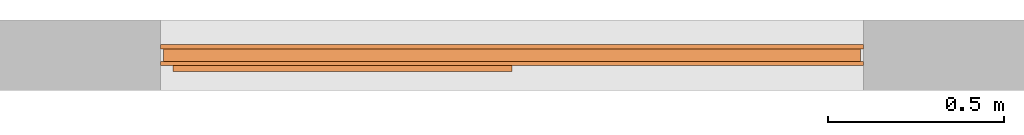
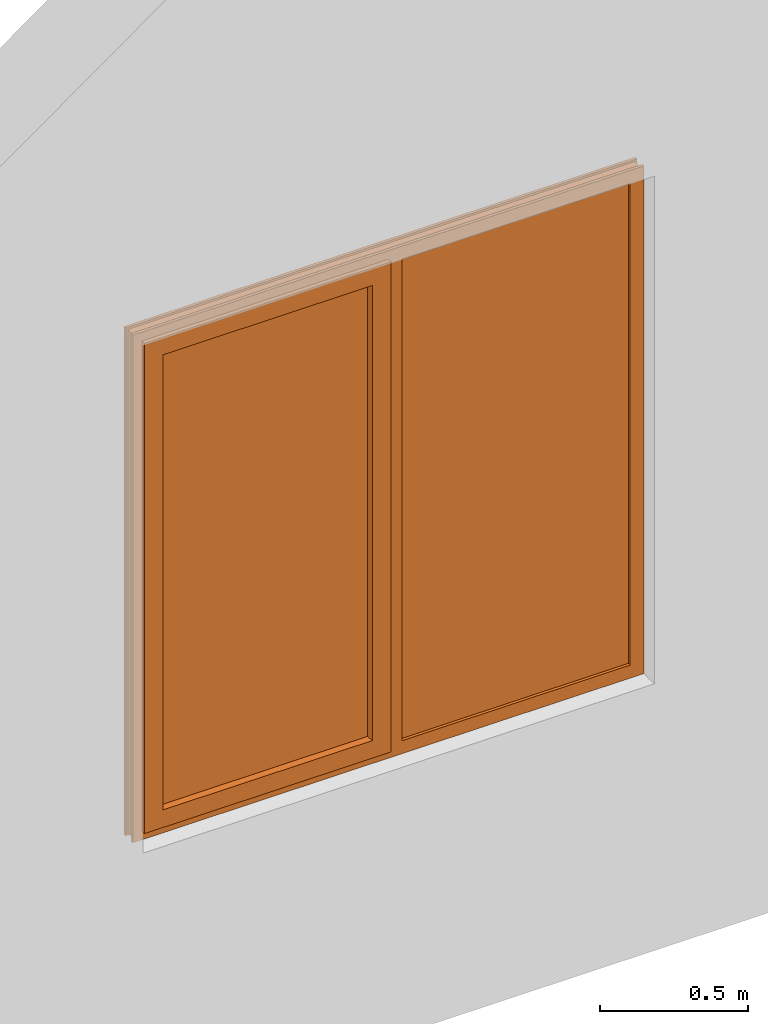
# One storey, part 2 of 2: 1 proxy.
"""IFC2X3 building model written with IfcOpenShell, lengths in millimetres."""

from ifc_helpers import new_model, entity, si_unit, converted_unit, derived_unit, direction, frame, origin, place, context, subcontext, project, spatial, faceted_brep, source, transform, mapped, material, material_list, type_object, type_shapes, element, save


model = new_model("IFC2X3")

# Units and contexts
model_context = context("Model", 3, precision=0.01, world=origin(), true_north=direction((6.12303176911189e-17, 1.0)))
body_context = subcontext(model_context, "Body", "Model", "MODEL_VIEW")
ifc_project = project(units=[si_unit("LENGTHUNIT", "METRE", prefix="MILLI"), si_unit("AREAUNIT", "SQUARE_METRE"), si_unit("VOLUMEUNIT", "CUBIC_METRE"), converted_unit("PLANEANGLEUNIT", "DEGREE", entity("IfcRatioMeasure", 0.0174532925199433), si_unit("PLANEANGLEUNIT", "RADIAN"), dimensions=[0, 0, 0, 0, 0, 0, 0]), si_unit("MASSUNIT", "GRAM", prefix="KILO"), derived_unit("MASSDENSITYUNIT", [(si_unit("MASSUNIT", "GRAM", prefix="KILO"), 1), (si_unit("LENGTHUNIT", "METRE"), -3)]), si_unit("TIMEUNIT", "SECOND"), si_unit("FREQUENCYUNIT", "HERTZ"), si_unit("THERMODYNAMICTEMPERATUREUNIT", "DEGREE_CELSIUS"), derived_unit("THERMALTRANSMITTANCEUNIT", [(si_unit("MASSUNIT", "GRAM", prefix="KILO"), 1), (si_unit("THERMODYNAMICTEMPERATUREUNIT", "KELVIN"), -1), (si_unit("TIMEUNIT", "SECOND"), -3)]), derived_unit("VOLUMETRICFLOWRATEUNIT", [(si_unit("LENGTHUNIT", "METRE"), 3), (si_unit("TIMEUNIT", "SECOND"), -1)]), si_unit("ELECTRICCURRENTUNIT", "AMPERE"), si_unit("ELECTRICVOLTAGEUNIT", "VOLT"), si_unit("POWERUNIT", "WATT"), si_unit("FORCEUNIT", "NEWTON", prefix="KILO"), si_unit("ILLUMINANCEUNIT", "LUX"), si_unit("LUMINOUSFLUXUNIT", "LUMEN"), si_unit("LUMINOUSINTENSITYUNIT", "CANDELA"), derived_unit("USERDEFINED", [(si_unit("MASSUNIT", "GRAM", prefix="KILO"), -1), (si_unit("LENGTHUNIT", "METRE"), -2), (si_unit("TIMEUNIT", "SECOND"), 3), (si_unit("LUMINOUSFLUXUNIT", "LUMEN"), 1)]), derived_unit("LINEARVELOCITYUNIT", [(si_unit("LENGTHUNIT", "METRE"), 1), (si_unit("TIMEUNIT", "SECOND"), -1)]), si_unit("PRESSUREUNIT", "PASCAL"), derived_unit("USERDEFINED", [(si_unit("LENGTHUNIT", "METRE"), -2), (si_unit("MASSUNIT", "GRAM", prefix="KILO"), 1), (si_unit("TIMEUNIT", "SECOND"), -2)])], contexts=[model_context])

# Site, building, storey
site_placement = place(None, origin())
site = spatial("IfcSite", under=ifc_project, at=site_placement, Name="Default", CompositionType="ELEMENT")
building_placement = place(site_placement, origin())
building = spatial("IfcBuilding", under=site, at=building_placement, CompositionType="ELEMENT")
storey_placement = place(building_placement, origin())
storey = spatial("IfcBuildingStorey", under=building, at=storey_placement, Name="Nivel 1", CompositionType="ELEMENT", Elevation=0.0)

# Proxy
ifc_material_1 = material(Name="Glass")
ifc_material_2 = material(Name="RAU-PVC")
ifc_material_list_1 = material_list([ifc_material_1, ifc_material_2])
ifc_material_list_2 = material_list([ifc_material_1, ifc_material_2])
building_element_proxy_type = type_object("IfcBuildingElementProxyType", Name="9.1 REH_ED-60 Z60 CORREDERA + FIJO", material=ifc_material_list_2)
shared_shape = source(origin(), body_context, "Body", "Brep", [
    faceted_brep([(1904.0306852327, 40.0, 2070.0), (1059.96931476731, 40.0, 2070.0), (1059.96931476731, 40.0, 30.0), (1904.0306852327, 40.0, 30.0), (1904.0306852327, 55.0, 2070.0), (1904.0306852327, 55.0, 30.0), (1059.96931476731, 55.0, 30.0), (1059.96931476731, 55.0, 2070.0)], [[[0, 1, 2, 3]], [[4, 5, 6, 7]], [[1, 0, 4, 7]], [[2, 1, 7, 6]], [[3, 2, 6, 5]], [[0, 3, 5, 4]]]),
    faceted_brep([(1946.0, 12.0, 54.0), (1946.0, 0.0, 54.0), (1946.0, 0.0, 2046.0), (1946.0, 12.0, 2046.0), (1970.0, 48.0, 30.0), (1970.0, 12.0, 30.0), (1970.0, 12.0, 2070.0), (1970.0, 48.0, 2070.0), (1946.0, 60.0, 54.0), (1946.0, 48.0, 54.0), (1946.0, 48.0, 2046.0), (1946.0, 60.0, 2046.0), (2000.0, 48.0, 0.0), (2000.0, 60.0, 0.0), (2000.0, 60.0, 2100.0), (2000.0, 48.0, 2100.0), (1992.0, 12.0, 8.0), (1992.0, 48.0, 8.0), (1992.0, 48.0, 2092.0), (1992.0, 12.0, 2092.0), (2000.0, 0.0, 0.0), (2000.0, 12.0, 0.0), (2000.0, 12.0, 2100.0), (2000.0, 0.0, 2100.0), (1000.0, 0.0, 2046.0), (1000.0, 12.0, 2046.0), (30.0, 12.0, 2070.0), (30.0, 48.0, 2070.0), (1000.0, 48.0, 2046.0), (1000.0, 60.0, 2046.0), (0.0, 60.0, 2100.0), (0.0, 48.0, 2100.0), (8.0, 48.0, 2092.0), (8.0, 12.0, 2092.0), (0.0, 12.0, 2100.0), (0.0, 0.0, 2100.0), (54.0, 12.0, 2046.0), (54.0, 0.0, 2046.0), (54.0, 0.0, 54.0), (54.0, 12.0, 54.0), (30.0, 12.0, 30.0), (30.0, 48.0, 30.0), (54.0, 60.0, 2046.0), (54.0, 48.0, 2046.0), (54.0, 48.0, 54.0), (54.0, 60.0, 54.0), (0.0, 60.0, 0.0), (0.0, 48.0, 0.0), (8.0, 48.0, 8.0), (8.0, 12.0, 8.0), (0.0, 12.0, 0.0), (0.0, 0.0, 0.0), (946.0, 0.0, 54.0), (946.0, 12.0, 54.0), (1000.0, 12.0, 54.0), (946.0, 12.0, 2046.0), (992.0, 12.0, 2048.0), (970.0, 12.0, 2048.0), (970.0, 12.0, 52.0), (992.0, 12.0, 52.0), (1000.0, 48.0, 54.0), (946.0, 48.0, 2046.0), (946.0, 48.0, 54.0), (992.0, 48.0, 52.0), (970.0, 48.0, 52.0), (970.0, 48.0, 2048.0), (992.0, 48.0, 2048.0), (946.0, 60.0, 54.0), (1000.0, 60.0, 54.0), (946.0, 60.0, 2046.0), (1000.0, 0.0, 54.0), (946.0, 0.0, 2046.0)], [[[0, 1, 2, 3]], [[4, 5, 6, 7]], [[8, 9, 10, 11]], [[12, 13, 14, 15]], [[16, 17, 18, 19]], [[20, 21, 22, 23]], [[3, 2, 24, 25]], [[7, 6, 26, 27]], [[11, 10, 28, 29]], [[15, 14, 30, 31]], [[19, 18, 32, 33]], [[23, 22, 34, 35]], [[36, 37, 38, 39]], [[27, 26, 40, 41]], [[42, 43, 44, 45]], [[31, 30, 46, 47]], [[33, 32, 48, 49]], [[35, 34, 50, 51]], [[39, 38, 52, 53]], [[0, 3, 25, 54], [6, 5, 40, 26], [39, 53, 55, 36], [56, 57, 58, 59]], [[5, 4, 41, 40]], [[4, 7, 27, 41], [10, 9, 60, 28], [43, 61, 62, 44], [63, 64, 65, 66]], [[45, 44, 62, 67]], [[8, 11, 29, 68], [14, 13, 46, 30], [45, 67, 69, 42]], [[13, 12, 47, 46]], [[12, 15, 31, 47], [18, 17, 48, 32]], [[17, 16, 49, 48]], [[16, 19, 33, 49], [22, 21, 50, 34]], [[21, 20, 51, 50]], [[2, 1, 70, 24], [20, 23, 35, 51], [37, 71, 52, 38]], [[58, 64, 63, 59]], [[56, 66, 65, 57]], [[52, 71, 55, 53]], [[65, 64, 58, 57]], [[62, 61, 69, 67]], [[28, 60, 68, 29]], [[56, 59, 63, 66]], [[24, 70, 54, 25]], [[9, 8, 68, 60]], [[1, 0, 54, 70]], [[43, 42, 69, 61]], [[37, 36, 55, 71]]], outer=[[True], [True], [True], [True], [True], [True], [True], [True], [True], [True], [True], [True], [True], [True], [True], [True], [True], [True], [True], [False, True, False, False], [True], [True, False, False, False], [True], [False, True, False], [True], [True, False], [True], [False, True], [True], [False, True, False], [True], [True], [True], [True], [True], [True], [True], [True], [True], [True], [True], [True]]),
    faceted_brep([(1019.99931476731, 17.0, 2044.00068523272), (1019.99931476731, 60.0, 2044.00068523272), (1019.99931476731, 60.0, 55.9993147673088), (1019.99931476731, 17.0, 55.9993147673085), (1081.74098451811, 36.0, 1982.25901548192), (1076.64994986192, 17.0, 1987.35005013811), (1076.64994986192, 17.0, 112.649949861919), (1081.74098451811, 36.0, 117.740984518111), (1059.96931476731, 55.0, 2004.03068523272), (1059.96931476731, 36.0, 2004.03068523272), (1059.96931476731, 36.0, 95.969314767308), (1059.96931476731, 55.0, 95.969314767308), (1072.72904449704, 77.0, 1991.27095550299), (1078.67499044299, 55.0, 1985.32500955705), (1078.67499044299, 55.0, 114.674990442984), (1072.72904449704, 77.0, 108.729044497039), (999.999314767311, 60.0, 2064.00068523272), (999.999314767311, 77.0, 2064.00068523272), (999.999314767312, 77.0, 35.9993147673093), (999.999314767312, 60.0, 35.9993147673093), (1944.0006852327, 60.0, 55.9993147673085), (1944.0006852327, 17.0, 55.9993147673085), (1887.35005013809, 17.0, 112.649949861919), (1882.25901548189, 36.0, 117.740984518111), (1904.0306852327, 36.0, 95.9693147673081), (1904.0306852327, 55.0, 95.9693147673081), (1885.32500955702, 55.0, 114.674990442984), (1891.27095550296, 77.0, 108.729044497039), (1964.00068523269, 77.0, 35.9993147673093), (1964.00068523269, 60.0, 35.9993147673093), (1944.00068523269, 60.0, 2044.00068523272), (1944.00068523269, 17.0, 2044.00068523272), (1887.35005013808, 17.0, 1987.35005013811), (1882.25901548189, 36.0, 1982.25901548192), (1904.0306852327, 36.0, 2004.03068523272), (1904.0306852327, 55.0, 2004.03068523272), (1885.32500955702, 55.0, 1985.32500955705), (1891.27095550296, 77.0, 1991.27095550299), (1964.00068523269, 77.0, 2064.00068523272), (1964.00068523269, 60.0, 2064.00068523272)], [[[0, 1, 2, 3]], [[4, 5, 6, 7]], [[8, 9, 10, 11]], [[12, 13, 14, 15]], [[16, 17, 18, 19]], [[3, 2, 20, 21]], [[7, 6, 22, 23]], [[11, 10, 24, 25]], [[15, 14, 26, 27]], [[19, 18, 28, 29]], [[21, 20, 30, 31]], [[23, 22, 32, 33]], [[25, 24, 34, 35]], [[27, 26, 36, 37]], [[29, 28, 38, 39]], [[19, 29, 39, 16], [1, 30, 20, 2]], [[31, 30, 1, 0]], [[3, 21, 31, 0], [5, 32, 22, 6]], [[33, 32, 5, 4]], [[7, 23, 33, 4], [9, 34, 24, 10]], [[35, 34, 9, 8]], [[11, 25, 35, 8], [13, 36, 26, 14]], [[37, 36, 13, 12]], [[15, 27, 37, 12], [17, 38, 28, 18]], [[39, 38, 17, 16]]], outer=[[True], [True], [True], [True], [True], [True], [True], [True], [True], [True], [True], [True], [True], [True], [True], [True, False], [True], [True, False], [True], [False, True], [True], [True, False], [True], [False, True], [True]]),
    faceted_brep([(30.0, 30.0, 2070.0), (969.554593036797, 30.0, 2070.0), (969.554593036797, 30.0, 30.0), (30.0, 30.0, 30.0), (30.0, 15.0, 2070.0), (30.0, 15.0, 30.0), (969.554593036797, 15.0, 30.0), (969.554593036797, 15.0, 2070.0)], [[[0, 1, 2, 3]], [[4, 5, 6, 7]], [[4, 7, 1, 0]], [[7, 6, 2, 1]], [[6, 5, 3, 2]], [[5, 4, 0, 3]]]),
])
type_shapes(building_element_proxy_type, [shared_shape])
proxy_placement = place(storey_placement, frame((36.2664243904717, 2911.09928072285, 1103.55877216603), z_axis=(0.0, 0.0, 1.0), x_axis=(-1.0, 0.0, 0.0)))
element("IfcBuildingElementProxy", 1, at=proxy_placement, inside=storey, type_object=building_element_proxy_type, material=ifc_material_list_1, Name="9.1 REH_ED-60 Z60 CORREDERA + FIJO:9.1 REH_ED-60 Z60 CORREDERA + FIJO", ObjectType="9.1 REH_ED-60 Z60 CORREDERA + FIJO", context=body_context, shape_type="MappedRepresentation", body=[
    mapped(shared_shape, transform((0.0, 0.0, 0.0), scale=1.0)),
])

save(model, "model.ifc")
